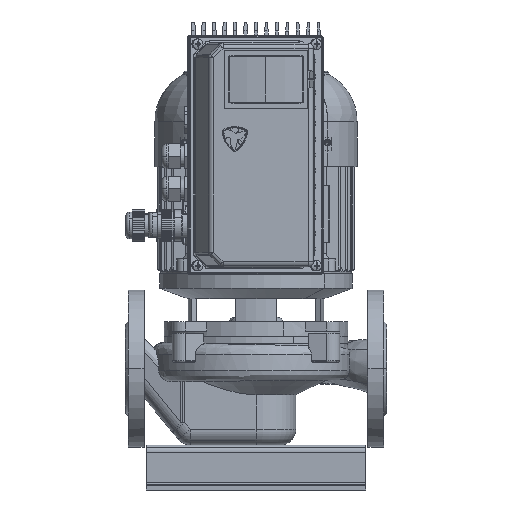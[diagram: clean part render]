
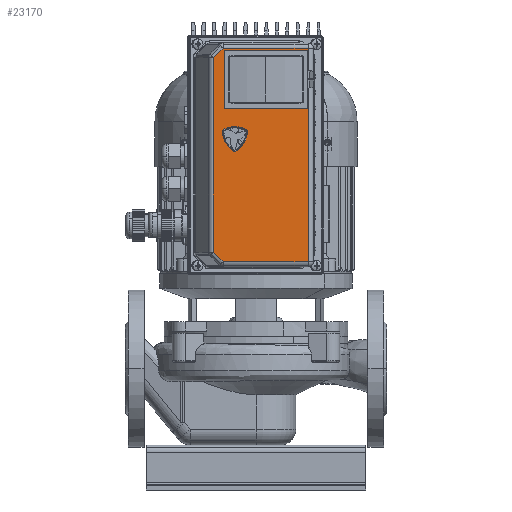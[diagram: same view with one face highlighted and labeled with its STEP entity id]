
A CAD part, left-side view. The second image highlights one B-rep face of the part: STEP entity #23170.
In plain terms, the highlighted planar face has unit normal (-1, 0, 0) as drawn and (0, 0.276, -0.961) by its records, which use the part's own axes.
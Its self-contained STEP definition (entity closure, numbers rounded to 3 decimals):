
#23170=ADVANCED_FACE('',(#45983,#45984),#45985,.F.);
#45983=FACE_BOUND('',#81915,.T.);
#45984=FACE_OUTER_BOUND('',#81916,.T.);
#45985=PLANE('',#81917);
#81915=EDGE_LOOP('',(#123627,#123628,#123629,#123630));
#81916=EDGE_LOOP('',(#123631,#123632,#123633,#123634,#123635,#123636));
#81917=AXIS2_PLACEMENT_3D('',#123637,#123638,#123639);
#123627=ORIENTED_EDGE('',*,*,#135402,.T.);
#123628=ORIENTED_EDGE('',*,*,#135405,.T.);
#123629=ORIENTED_EDGE('',*,*,#135395,.T.);
#123630=ORIENTED_EDGE('',*,*,#135399,.T.);
#123631=ORIENTED_EDGE('',*,*,#134491,.F.);
#123632=ORIENTED_EDGE('',*,*,#136243,.F.);
#123633=ORIENTED_EDGE('',*,*,#136249,.F.);
#123634=ORIENTED_EDGE('',*,*,#134968,.T.);
#123635=ORIENTED_EDGE('',*,*,#135781,.T.);
#123636=ORIENTED_EDGE('',*,*,#136247,.T.);
#123637=CARTESIAN_POINT('',(0.,13.785,32.694));
#123638=DIRECTION('',(0.0,-0.276,0.961));
#123639=DIRECTION('',(-0.0,0.961,0.276));
#134491=EDGE_CURVE('',#144681,#144683,#144684,.T.);
#134968=EDGE_CURVE('',#145498,#145496,#145499,.T.);
#135395=EDGE_CURVE('',#146219,#146220,#146221,.T.);
#135399=EDGE_CURVE('',#146220,#146225,#146226,.T.);
#135402=EDGE_CURVE('',#146225,#146229,#146230,.T.);
#135405=EDGE_CURVE('',#146229,#146219,#146233,.T.);
#135781=EDGE_CURVE('',#145496,#146662,#146664,.T.);
#136243=EDGE_CURVE('',#147184,#144681,#147186,.T.);
#136247=EDGE_CURVE('',#146662,#144683,#147190,.T.);
#136249=EDGE_CURVE('',#145498,#147184,#147192,.T.);
#144681=VERTEX_POINT('',#161660);
#144683=VERTEX_POINT('',#161662);
#144684=LINE('',#161663,#161664);
#145496=VERTEX_POINT('',#162603);
#145498=VERTEX_POINT('',#162605);
#145499=LINE('',#162606,#162607);
#146219=VERTEX_POINT('',#163466);
#146220=VERTEX_POINT('',#163467);
#146221=LINE('',#163468,#163469);
#146225=VERTEX_POINT('',#163475);
#146226=LINE('',#163476,#163477);
#146229=VERTEX_POINT('',#163481);
#146230=LINE('',#163482,#163483);
#146233=LINE('',#163487,#163488);
#146662=VERTEX_POINT('',#163968);
#146664=LINE('',#163970,#163971);
#147184=VERTEX_POINT('',#164589);
#147186=LINE('',#164591,#164592);
#147190=LINE('',#164596,#164597);
#147192=LINE('',#164599,#164600);
#161660=CARTESIAN_POINT('',(-102.0,48.307,42.593));
#161662=CARTESIAN_POINT('',(-102.0,-29.808,20.194));
#161663=CARTESIAN_POINT('',(-102.0,-21.808,22.488));
#161664=VECTOR('',#174927,1.);
#162603=CARTESIAN_POINT('',(102.0,48.307,42.593));
#162605=CARTESIAN_POINT('',(92.929,57.378,45.194));
#162606=CARTESIAN_POINT('',(81.022,69.285,48.608));
#162607=VECTOR('',#175817,1.);
#163466=CARTESIAN_POINT('',(-50.,42.286,40.866));
#163467=CARTESIAN_POINT('',(-95.,42.286,40.866));
#163468=CARTESIAN_POINT('',(-36.25,42.286,40.866));
#163469=VECTOR('',#176605,1.);
#163475=CARTESIAN_POINT('',(-95.,-24.041,21.847));
#163476=CARTESIAN_POINT('',(-95.,11.454,32.025));
#163477=VECTOR('',#176608,1.);
#163481=CARTESIAN_POINT('',(-50.,-24.041,21.847));
#163482=CARTESIAN_POINT('',(-36.25,-24.041,21.847));
#163483=VECTOR('',#176610,1.);
#163487=CARTESIAN_POINT('',(-50.,11.454,32.025));
#163488=VECTOR('',#176612,1.);
#163968=CARTESIAN_POINT('',(102.0,-29.808,20.194));
#163970=CARTESIAN_POINT('',(102.0,-21.808,22.488));
#163971=VECTOR('',#177198,1.0);
#164589=CARTESIAN_POINT('',(-92.929,57.378,45.194));
#164591=CARTESIAN_POINT('',(-81.022,69.285,48.608));
#164592=VECTOR('',#177873,1.);
#164596=CARTESIAN_POINT('',(0.,-29.808,20.194));
#164597=VECTOR('',#177877,1.0);
#164599=CARTESIAN_POINT('',(0.,57.378,45.194));
#164600=VECTOR('',#177878,1.0);
#174927=DIRECTION('',(0.,-0.961,-0.276));
#175817=DIRECTION('',(0.693,-0.693,-0.199));
#176605=DIRECTION('',(-1.0,0.,0.));
#176608=DIRECTION('',(-0.0,-0.961,-0.276));
#176610=DIRECTION('',(1.0,0.,0.));
#176612=DIRECTION('',(-0.0,0.961,0.276));
#177198=DIRECTION('',(0.,-0.961,-0.276));
#177873=DIRECTION('',(-0.693,-0.693,-0.199));
#177877=DIRECTION('',(-1.0,0.0,0.0));
#177878=DIRECTION('',(-1.0,0.0,0.0));
